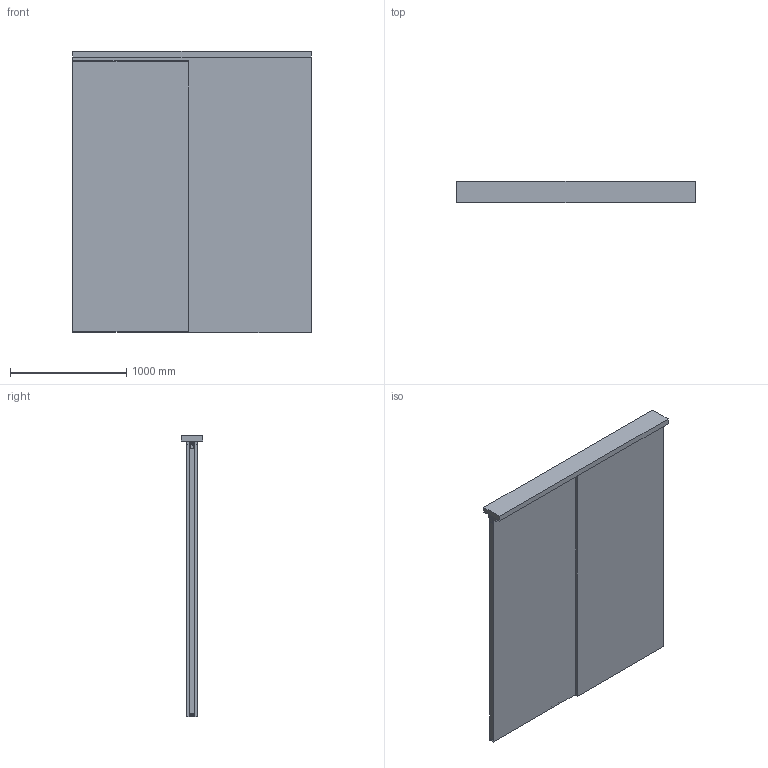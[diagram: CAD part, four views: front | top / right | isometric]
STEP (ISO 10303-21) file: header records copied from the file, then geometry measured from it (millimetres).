
FILE_DESCRIPTION(('STEP AP242'),'1');
FILE_NAME('OPO_65.080.11.stp','2026-01-14T05:25:03',(' '),(' '),'Spatial InterOp 3D',' ',' ');
FILE_SCHEMA(('AP242_MANAGED_MODEL_BASED_3D_ENGINEERING_MIM_LF {1 0 10303 442 1 1 4}'));
Length unit declared in the file: millimetre
Products named in the file (9): Zeichnung2; OPO_65.080.11_Bodenfuehrung_Holz; OPO_65.082.78; OPO_65.080.11_Laufwerk; OPO_65.080.11_Laufwerk_mit_Daempfer; OPO_65.080.11_Aktivator; OPO_65.080.11_Aufhaengung_minimal_Holz; OPO_65.082.61; AutoCreatedBlock_1CA
Assembly tree (11 placements, depth 2):
  Zeichnung2
    OPO_65.080.11_Bodenfuehrung_Holz
    OPO_65.082.78  x2
    OPO_65.080.11_Laufwerk
    OPO_65.080.11_Laufwerk_mit_Daempfer
    OPO_65.080.11_Aktivator  x2
    OPO_65.080.11_Aufhaengung_minimal_Holz  x2
    OPO_65.082.61
    AutoCreatedBlock_1CA
Bounding box: 2050.5 x 188 x 2418 mm (x, y, z)
Volume: 213868914 mm3; surface area: 17392857.5 mm2
Topology: 80 solids, 80 shells, 1473 faces, 3749 edges, 2478 vertices
Faces by surface type: plane 841, cylinder 604, cone 28
Entity records: 42982 total; most frequent: DIRECTION 6025, CARTESIAN_POINT 6006, ORIENTED_EDGE 5594, EDGE_CURVE 2797, AXIS2_PLACEMENT_3D 2109, VERTEX_POINT 1852, LINE 1807, VECTOR 1807
